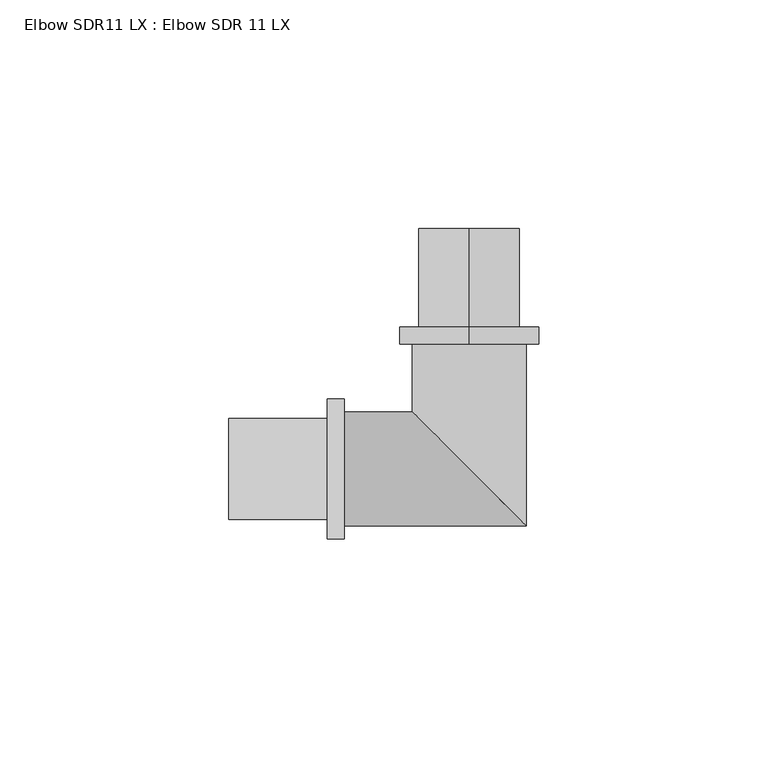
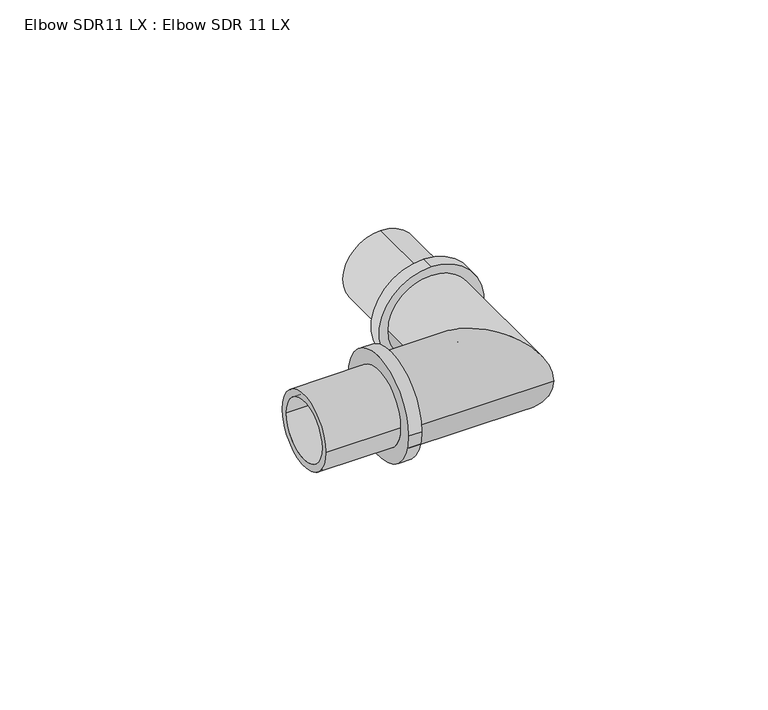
"""IFC4 building model written with IfcOpenShell, lengths in millimetres: pipe fitting geometry, Elbow SDR11 LX : Elbow SDR 11 LX."""

from ifc_helpers import new_model, si_unit, frame, origin, place, context, project, spatial, polyline, circle_curve, ellipse_curve, source, transform, mapped, element, save
from ifc_brep_helpers import plane_surface, cylinder_surface, revolved_surface, advanced_brep


def elbow_sdr11_lx_elbow_sdr_11_lx_623d303d(model_context):
    return source(origin(), model_context, "Body", "AdvancedBrep", [
        advanced_brep(
        [(-27.3, -12.5, 0.0), (-27.3, 12.5, 0.0), (-27.3, -8.9, 0.0), (-27.3, 8.9, 0.0), (12.5, -12.5, 0.0), (-12.5, 12.5, 0.0), (8.9, -8.9, 0.0), (-8.9, 8.9, 0.0), (12.5, 27.3, 0.0), (-12.5, 27.3, 0.0), (8.9, 27.3, 0.0), (-8.9, 27.3, 0.0)],
        [
            (0, 1, circle_curve(frame((-27.3, 0.0, 0.0), z_axis=(-1.0, 0.0, 0.0), x_axis=(0.0, 1.0, 0.0)), 12.5)),
            (1, 0, circle_curve(frame((-27.3, 0.0, 0.0), z_axis=(-1.0, 0.0, 0.0), x_axis=(0.0, 1.0, 0.0)), 12.5)),
            (2, 3, circle_curve(frame((-27.3, 0.0, 0.0), z_axis=(1.0, 0.0, 0.0), x_axis=(0.0, 1.0, 0.0)), 8.9)),
            (3, 2, circle_curve(frame((-27.3, 0.0, 0.0), z_axis=(1.0, 0.0, 0.0), x_axis=(0.0, 1.0, 0.0)), 8.9)),
            (0, 4),
            (4, 5, ellipse_curve(frame((0.0, 0.0, 0.0), z_axis=(-0.7071067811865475, -0.7071067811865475, 0.0), x_axis=(-0.7071067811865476, 0.7071067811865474, 0.0)), 17.6776695, 12.5)),
            (5, 1),
            (5, 4, ellipse_curve(frame((0.0, 0.0, 0.0), z_axis=(-0.7071067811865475, -0.7071067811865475, 0.0), x_axis=(-0.7071067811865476, 0.7071067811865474, 0.0)), 17.6776695, 12.5)),
            (2, 6),
            (6, 7, ellipse_curve(frame((0.0, 0.0, 0.0), z_axis=(0.7071067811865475, 0.7071067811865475, 0.0), x_axis=(0.7071067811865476, -0.7071067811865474, 0.0)), 12.5865007, 8.9)),
            (7, 3),
            (7, 6, ellipse_curve(frame((0.0, 0.0, 0.0), z_axis=(0.7071067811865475, 0.7071067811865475, 0.0), x_axis=(0.7071067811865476, -0.7071067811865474, 0.0)), 12.5865007, 8.9)),
            (8, 9, circle_curve(frame((0.0, 27.3, 0.0), z_axis=(0.0, 1.0, 0.0), x_axis=(-1.0, 0.0, 0.0)), 12.5)),
            (9, 8, circle_curve(frame((0.0, 27.3, 0.0), z_axis=(0.0, 1.0, 0.0), x_axis=(-1.0, 0.0, 0.0)), 12.5)),
            (10, 11, circle_curve(frame((0.0, 27.3, 0.0), z_axis=(0.0, -1.0, 0.0), x_axis=(-1.0, 0.0, 0.0)), 8.9)),
            (11, 10, circle_curve(frame((0.0, 27.3, 0.0), z_axis=(0.0, -1.0, 0.0), x_axis=(-1.0, 0.0, 0.0)), 8.9)),
            (4, 8),
            (9, 5),
            (6, 10),
            (11, 7),
        ],
        [
            plane_surface(frame((-27.3, 0.0, 0.0), z_axis=(-1.0, 0.0, 0.0), x_axis=(0.0, 0.0, 1.0))),
            cylinder_surface(frame((-27.3, 0.0, 0.0), z_axis=(-1.0, 0.0, 0.0), x_axis=(0.0, 1.0, 0.0)), 12.5),
            revolved_surface(polyline([(8.900000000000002, 8.9, 0.0), (-27.3, 8.9, 0.0)]), (-27.3, 0.0, 0.0), (1.0, 0.0, 0.0)),
            plane_surface(frame((0.0, 27.3, 0.0), z_axis=(0.0, 1.0, 0.0), x_axis=(0.0, 0.0, 1.0))),
            cylinder_surface(frame((0.0, 0.0, 0.0), z_axis=(0.0, -1.0, 0.0), x_axis=(-1.0, 0.0, 0.0)), 12.5),
            revolved_surface(polyline([(-8.9, 27.3, 0.0), (-8.9, -8.9, 0.0)]), (0.0, 0.0, 0.0), (0.0, 1.0, 0.0)),
        ],
        [
            (0, [[1, 2], [3, 4]]),
            (1, [[-1, 5, 6, 7]]),
            (1, [[-2, -7, 8, -5]]),
            (2, [[-3, 9, 10, 11]]),
            (2, [[-4, -11, 12, -9]]),
            (3, [[13, 14], [15, 16]]),
            (4, [[-6, 17, -14, 18]]),
            (4, [[-8, -18, -13, -17]]),
            (5, [[-10, 19, -16, 20]]),
            (5, [[-12, -20, -15, -19]]),
        ],
    ),
        advanced_brep(
        [(0.0, 52.5, 8.9), (0.0, 52.5, -8.9), (0.0, 27.3, -8.9), (0.0, 27.3, 8.9), (0.0, 31.0, 11.0), (0.0, 31.0, -11.0), (0.0, 52.5, -11.0), (0.0, 52.5, 11.0), (0.0, 27.3, 15.25), (0.0, 27.3, -15.25), (0.0, 31.0, -15.25), (0.0, 31.0, 15.25)],
        [
            (0, 1, circle_curve(frame((0.0, 52.5, 0.0), z_axis=(0.0, 1.0, 0.0), x_axis=(0.0, 0.0, -1.0)), 8.9)),
            (1, 2),
            (2, 3, circle_curve(frame((0.0, 27.3, 0.0), z_axis=(0.0, -1.0, 0.0), x_axis=(0.0, 0.0, -1.0)), 8.9)),
            (3, 0),
            (4, 5, circle_curve(frame((0.0, 31.0, 0.0), z_axis=(0.0, 1.0, 0.0), x_axis=(0.0, 0.0, -1.0)), 11.0)),
            (5, 6),
            (6, 7, circle_curve(frame((0.0, 52.5, 0.0), z_axis=(0.0, -1.0, 0.0), x_axis=(0.0, 0.0, -1.0)), 11.0)),
            (7, 4),
            (8, 9, circle_curve(frame((0.0, 27.3, 0.0), z_axis=(0.0, 1.0, 0.0), x_axis=(0.0, 0.0, -1.0)), 15.25)),
            (9, 10),
            (10, 11, circle_curve(frame((0.0, 31.0, 0.0), z_axis=(0.0, -1.0, 0.0), x_axis=(0.0, 0.0, -1.0)), 15.25)),
            (11, 8),
            (1, 0, circle_curve(frame((0.0, 52.5, 0.0), z_axis=(0.0, 1.0, 0.0), x_axis=(0.0, 0.0, 1.0)), 8.9)),
            (3, 2, circle_curve(frame((0.0, 27.3, 0.0), z_axis=(0.0, -1.0, 0.0), x_axis=(0.0, 0.0, 1.0)), 8.9)),
            (6, 7, circle_curve(frame((0.0, 52.5, 0.0), z_axis=(0.0, 1.0, 0.0), x_axis=(0.0, 0.0, 1.0)), 11.0)),
            (5, 4, circle_curve(frame((0.0, 31.0, 0.0), z_axis=(0.0, 1.0, 0.0), x_axis=(0.0, 0.0, 1.0)), 11.0)),
            (10, 11, circle_curve(frame((0.0, 31.0, 0.0), z_axis=(0.0, 1.0, 0.0), x_axis=(0.0, 0.0, 1.0)), 15.25)),
            (9, 8, circle_curve(frame((0.0, 27.3, 0.0), z_axis=(0.0, 1.0, 0.0), x_axis=(0.0, 0.0, 1.0)), 15.25)),
        ],
        [
            revolved_surface(polyline([(0.0, 27.3, -8.9), (0.0, 52.5, -8.9)]), (0.0, 0.0, 0.0), (0.0, -1.0, 0.0)),
            cylinder_surface(frame((0.0, 0.0, 0.0), z_axis=(0.0, -1.0, 0.0), x_axis=(0.0, 0.0, -1.0)), 11.0),
            cylinder_surface(frame((0.0, 0.0, 0.0), z_axis=(0.0, -1.0, 0.0), x_axis=(0.0, 0.0, -1.0)), 15.25),
            revolved_surface(polyline([(0.0, 27.3, 8.9), (0.0, 52.5, 8.9)]), (0.0, 0.0, 0.0), (0.0, -1.0, 0.0)),
            plane_surface(frame((0.0, 52.5, 0.0), z_axis=(0.0, 1.0, 0.0), x_axis=(0.0, 0.0, 1.0))),
            cylinder_surface(frame((0.0, 0.0, 0.0), z_axis=(0.0, -1.0, 0.0), x_axis=(0.0, 0.0, 1.0)), 11.0),
            plane_surface(frame((0.0, 31.0, 0.0), z_axis=(0.0, 1.0, 0.0), x_axis=(0.0, 0.0, 1.0))),
            cylinder_surface(frame((0.0, 0.0, 0.0), z_axis=(0.0, -1.0, 0.0), x_axis=(0.0, 0.0, 1.0)), 15.25),
            plane_surface(frame((0.0, 27.3, 0.0), z_axis=(0.0, -1.0, 0.0), x_axis=(0.0, 0.0, 1.0))),
        ],
        [
            (0, [[1, 2, 3, 4]]),
            (1, [[5, 6, 7, 8]]),
            (2, [[9, 10, 11, 12]]),
            (3, [[13, -4, 14, -2]]),
            (4, [[15, -7], [-13, -1]]),
            (5, [[16, -8, -15, -6]]),
            (6, [[17, -11], [-16, -5]]),
            (7, [[18, -12, -17, -10]]),
            (8, [[-18, -9], [-14, -3]]),
        ],
    ),
        advanced_brep(
        [(-27.3, 15.25, 0.0), (-27.3, -15.25, 0.0), (-31.0, -15.25, 0.0), (-31.0, 15.25, 0.0), (-31.0, 11.0, 0.0), (-31.0, -11.0, 0.0), (-52.5, -11.0, 0.0), (-52.5, 11.0, 0.0), (-52.5, 8.9, 0.0), (-52.5, -8.9, 0.0), (-27.3, -8.9, 0.0), (-27.3, 8.9, 0.0)],
        [
            (0, 1, circle_curve(frame((-27.3, 0.0, 0.0), z_axis=(-1.0, 0.0, 0.0), x_axis=(0.0, -1.0, 0.0)), 15.25)),
            (1, 2),
            (2, 3, circle_curve(frame((-31.0, 0.0, 0.0), z_axis=(1.0, 0.0, 0.0), x_axis=(0.0, -1.0, 0.0)), 15.25)),
            (3, 0),
            (4, 5, circle_curve(frame((-31.0, 0.0, 0.0), z_axis=(-1.0, 0.0, 0.0), x_axis=(0.0, -1.0, 0.0)), 11.0)),
            (5, 6),
            (6, 7, circle_curve(frame((-52.5, 0.0, 0.0), z_axis=(1.0, 0.0, 0.0), x_axis=(0.0, -1.0, 0.0)), 11.0)),
            (7, 4),
            (8, 9, circle_curve(frame((-52.5, 0.0, 0.0), z_axis=(-1.0, 0.0, 0.0), x_axis=(0.0, -1.0, 0.0)), 8.9)),
            (9, 10),
            (10, 11, circle_curve(frame((-27.3, 0.0, 0.0), z_axis=(1.0, 0.0, 0.0), x_axis=(0.0, -1.0, 0.0)), 8.9)),
            (11, 8),
            (0, 1, circle_curve(frame((-27.3, 0.0, 0.0), z_axis=(1.0, 0.0, 0.0), x_axis=(0.0, 1.0, 0.0)), 15.25)),
            (10, 11, circle_curve(frame((-27.3, 0.0, 0.0), z_axis=(-1.0, 0.0, 0.0), x_axis=(0.0, 1.0, 0.0)), 8.9)),
            (3, 2, circle_curve(frame((-31.0, 0.0, 0.0), z_axis=(1.0, 0.0, 0.0), x_axis=(0.0, 1.0, 0.0)), 15.25)),
            (4, 5, circle_curve(frame((-31.0, 0.0, 0.0), z_axis=(1.0, 0.0, 0.0), x_axis=(0.0, 1.0, 0.0)), 11.0)),
            (7, 6, circle_curve(frame((-52.5, 0.0, 0.0), z_axis=(1.0, 0.0, 0.0), x_axis=(0.0, 1.0, 0.0)), 11.0)),
            (8, 9, circle_curve(frame((-52.5, 0.0, 0.0), z_axis=(1.0, 0.0, 0.0), x_axis=(0.0, 1.0, 0.0)), 8.9)),
        ],
        [
            cylinder_surface(frame((0.0, 0.0, 0.0), z_axis=(1.0, 0.0, 0.0), x_axis=(0.0, -1.0, 0.0)), 15.25),
            cylinder_surface(frame((0.0, 0.0, 0.0), z_axis=(1.0, 0.0, 0.0), x_axis=(0.0, -1.0, 0.0)), 11.0),
            revolved_surface(polyline([(-27.3, -8.9, 0.0), (-52.5, -8.9, 0.0)]), (0.0, 0.0, 0.0), (1.0, 0.0, 0.0)),
            plane_surface(frame((-27.3, 0.0, 0.0), z_axis=(1.0, 0.0, 0.0), x_axis=(0.0, 1.0, 0.0))),
            cylinder_surface(frame((0.0, 0.0, 0.0), z_axis=(1.0, 0.0, 0.0), x_axis=(0.0, 1.0, 0.0)), 15.25),
            plane_surface(frame((-31.0, 0.0, 0.0), z_axis=(-1.0, 0.0, 0.0), x_axis=(0.0, 1.0, 0.0))),
            cylinder_surface(frame((0.0, 0.0, 0.0), z_axis=(1.0, 0.0, 0.0), x_axis=(0.0, 1.0, 0.0)), 11.0),
            plane_surface(frame((-52.5, 0.0, 0.0), z_axis=(-1.0, 0.0, 0.0), x_axis=(0.0, 1.0, 0.0))),
            revolved_surface(polyline([(-27.3, 8.9, 0.0), (-52.5, 8.9, 0.0)]), (0.0, 0.0, 0.0), (1.0, 0.0, 0.0)),
        ],
        [
            (0, [[1, 2, 3, 4]]),
            (1, [[5, 6, 7, 8]]),
            (2, [[9, 10, 11, 12]]),
            (3, [[13, -1], [14, -11]]),
            (4, [[-13, -4, 15, -2]]),
            (5, [[-15, -3], [16, -5]]),
            (6, [[-16, -8, 17, -6]]),
            (7, [[-17, -7], [18, -9]]),
            (8, [[-18, -12, -14, -10]]),
        ],
    ),
    ])


if __name__ == "__main__":
    model = new_model("IFC4")
    model_context = context("Model", 3, world=origin())
    ifc_project = project(units=[si_unit("LENGTHUNIT", "METRE", prefix="MILLI")], contexts=[model_context])
    site = spatial("IfcSite", under=ifc_project)
    building = spatial("IfcBuilding", under=site)
    placement = place(None, origin())
    elbow_sdr11_lx_elbow_sdr_11_lx_shape = elbow_sdr11_lx_elbow_sdr_11_lx_623d303d(model_context)
    element("IfcPipeFitting", 1, ObjectType="Elbow SDR11 LX : Elbow SDR 11 LX", at=placement, inside=building, context=model_context, shape_type="MappedRepresentation", body=[
        mapped(elbow_sdr11_lx_elbow_sdr_11_lx_shape, transform((0.0, 0.0, 0.0), x_axis=(1.0, 0.0, 0.0), y_axis=(0.0, 1.0, 0.0), z_axis=(0.0, 0.0, 1.0))),
    ])
    save(model, "model.ifc")
